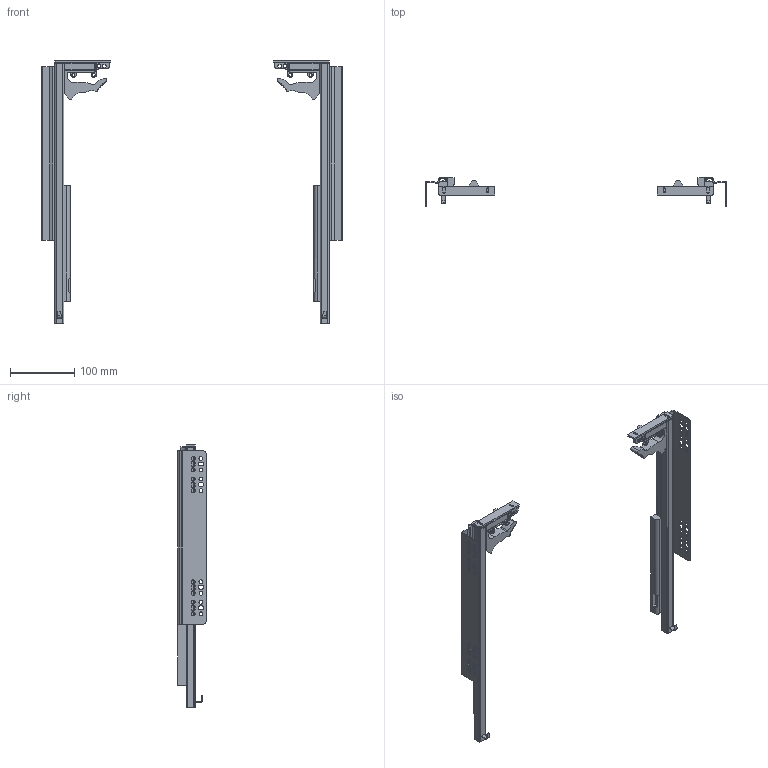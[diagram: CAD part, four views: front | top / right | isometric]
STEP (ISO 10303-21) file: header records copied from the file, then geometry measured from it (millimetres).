
FILE_DESCRIPTION(/* description */ ('Akc'),/* implementation_level */ '2;1');
FILE_NAME(/* name */ 'C:\Users\dmitruk\Documents\WORK\НАПРАВЛЯЮЩИЕ\Скрытого монтажа\Q-Type\Q-Type с замками (16 мм)\Q-Type с замками (16 мм)-400.stp',/* time_stamp */ '2022-04-22T17:47:20+03:00',/* author */ ('dmitruk'),/* organization */ (''),/* preprocessor_version */ 'ST-DEVELOPER v16.5',/* originating_system */ 'Autodesk Inventor 2017',/* authorisation */ '');
FILE_SCHEMA (('AUTOMOTIVE_DESIGN { 1 0 10303 214 3 1 1 }'));
Length unit declared in the file: millimetre
Products named in the file (6): Q-Type с замками 
(16 мм); Q-Type с замками \X2\043E0441
043D043E04320430043D04380435\X0\ L (16 мм); Q-Type с замками \X2\043E0441
043D043E04320430043D04380435\X0\ P (16 мм); Q-Type с замками 
выдвижение P; Крепление QType; Крепление QType P
Assembly tree (6 placements, depth 2):
  Q-Type с замками 
(16 мм)
    Q-Type с замками \X2\043E0441
043D043E04320430043D04380435\X0\ L (16 мм)
    Q-Type с замками 
выдвижение P  x2
    Q-Type с замками \X2\043E0441
043D043E04320430043D04380435\X0\ P (16 мм)
    Крепление QType
    Крепление QType P
Bounding box: 468 x 44 x 410 mm (x, y, z)
Volume: 226424.7 mm3; surface area: 247022.5 mm2
Topology: 16 solids, 16 shells, 578 faces, 1564 edges, 1022 vertices
Faces by surface type: plane 342, cylinder 212, cone 20, bspline 4
Full cylindrical faces by diameter (mm): 4.5 x4, 6 x32
Entity records: 17379 total; most frequent: CARTESIAN_POINT 3013, DIRECTION 2902, ORIENTED_EDGE 2824, EDGE_CURVE 1412, LINE 992, VECTOR 992, AXIS2_PLACEMENT_3D 955, VERTEX_POINT 950
